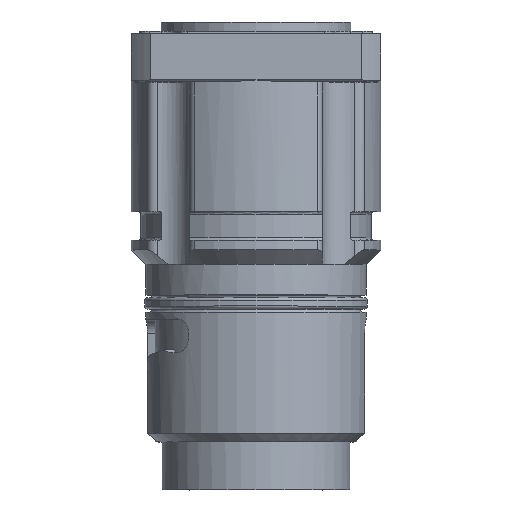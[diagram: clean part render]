
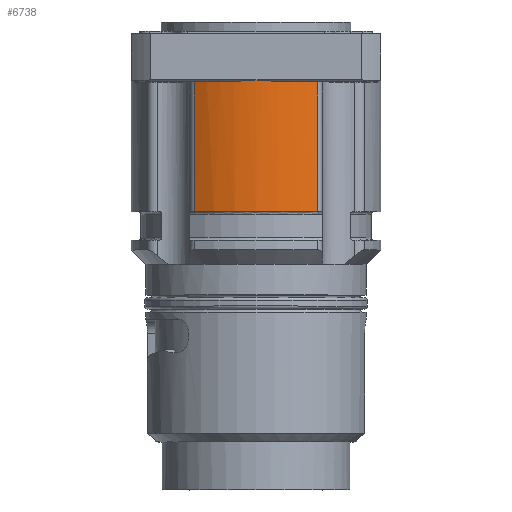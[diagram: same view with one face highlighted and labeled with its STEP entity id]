
A CAD part, top view. The second image highlights one B-rep face of the part: STEP entity #6738.
In plain terms, the highlighted cylindrical face has radius 13 mm (diameter 26 mm), a partial arc.
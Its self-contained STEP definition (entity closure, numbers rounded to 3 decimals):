
#112=ELLIPSE('',#7221,18.385,13.);
#113=ELLIPSE('',#7222,18.385,13.);
#135=CYLINDRICAL_SURFACE('',#7219,13.);
#378=FACE_OUTER_BOUND('',#765,.T.);
#765=EDGE_LOOP('',(#4289,#4290,#4291,#4292,#4293,#4294,#4295));
#1204=CIRCLE('',#7203,13.);
#1213=CIRCLE('',#7220,13.);
#1214=CIRCLE('',#7223,13.);
#1597=LINE('',#10444,#2077);
#1599=LINE('',#10450,#2079);
#2077=VECTOR('',#8152,10.);
#2079=VECTOR('',#8158,10.);
#2604=VERTEX_POINT('',#10299);
#2605=VERTEX_POINT('',#10301);
#2612=VERTEX_POINT('',#10443);
#2614=VERTEX_POINT('',#10449);
#2615=VERTEX_POINT('',#10451);
#2616=VERTEX_POINT('',#10453);
#2617=VERTEX_POINT('',#10455);
#3254=EDGE_CURVE('',#2605,#2604,#1204,.T.);
#3272=EDGE_CURVE('',#2605,#2612,#1597,.T.);
#3275=EDGE_CURVE('',#2614,#2604,#1599,.T.);
#3276=EDGE_CURVE('',#2615,#2614,#1213,.T.);
#3277=EDGE_CURVE('',#2616,#2615,#112,.F.);
#3278=EDGE_CURVE('',#2617,#2616,#113,.F.);
#3279=EDGE_CURVE('',#2612,#2617,#1214,.T.);
#4289=ORIENTED_EDGE('',*,*,#3254,.T.);
#4290=ORIENTED_EDGE('',*,*,#3275,.F.);
#4291=ORIENTED_EDGE('',*,*,#3276,.F.);
#4292=ORIENTED_EDGE('',*,*,#3277,.F.);
#4293=ORIENTED_EDGE('',*,*,#3278,.F.);
#4294=ORIENTED_EDGE('',*,*,#3279,.F.);
#4295=ORIENTED_EDGE('',*,*,#3272,.F.);
#6738=ADVANCED_FACE('',(#378),#135,.T.);
#7203=AXIS2_PLACEMENT_3D('',#10302,#8122,#8123);
#7219=AXIS2_PLACEMENT_3D('',#10448,#8156,#8157);
#7220=AXIS2_PLACEMENT_3D('',#10452,#8159,#8160);
#7221=AXIS2_PLACEMENT_3D('',#10454,#8161,#8162);
#7222=AXIS2_PLACEMENT_3D('',#10456,#8163,#8164);
#7223=AXIS2_PLACEMENT_3D('',#10457,#8165,#8166);
#8122=DIRECTION('center_axis',(0.,1.,0.));
#8123=DIRECTION('ref_axis',(-1.,0.,0.));
#8152=DIRECTION('',(0.,1.,0.));
#8156=DIRECTION('center_axis',(0.,1.,0.));
#8157=DIRECTION('ref_axis',(-1.,0.,0.));
#8158=DIRECTION('',(0.,-1.,0.));
#8159=DIRECTION('center_axis',(0.,1.,0.));
#8160=DIRECTION('ref_axis',(0.,0.,
-1.));
#8161=DIRECTION('center_axis',(0.,-0.707,
0.707));
#8162=DIRECTION('ref_axis',(0.,0.707,0.707));
#8163=DIRECTION('center_axis',(0.,-0.707,
0.707));
#8164=DIRECTION('ref_axis',(0.,0.707,0.707));
#8165=DIRECTION('center_axis',(0.,1.,0.));
#8166=DIRECTION('ref_axis',(0.,0.,
-1.));
#10299=CARTESIAN_POINT('',(-62.268,-98.566,16.499));
#10301=CARTESIAN_POINT('',(-75.127,-98.566,16.499));
#10302=CARTESIAN_POINT('Origin',(-68.698,-98.566,5.2));
#10443=CARTESIAN_POINT('',(-75.127,-85.066,16.499));
#10444=CARTESIAN_POINT('',(-75.127,-93.816,16.499));
#10448=CARTESIAN_POINT('Origin',(-68.698,-93.816,5.2));
#10449=CARTESIAN_POINT('',(-62.268,-85.066,16.499));
#10450=CARTESIAN_POINT('',(-62.268,-93.816,16.499));
#10451=CARTESIAN_POINT('',(-66.426,-85.066,18.));
#10452=CARTESIAN_POINT('Origin',(-68.698,-85.066,5.2));
#10453=CARTESIAN_POINT('',(-68.698,-84.866,18.2));
#10454=CARTESIAN_POINT('Origin',(-68.698,-97.866,5.2));
#10455=CARTESIAN_POINT('',(-70.969,-85.066,18.));
#10456=CARTESIAN_POINT('Origin',(-68.698,-97.866,5.2));
#10457=CARTESIAN_POINT('Origin',(-68.698,-85.066,5.2));
